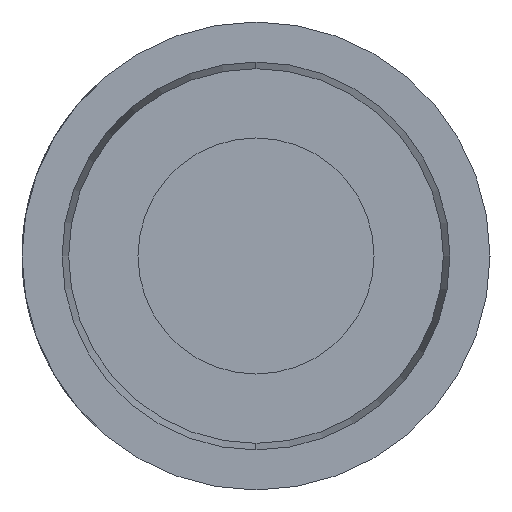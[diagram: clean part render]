
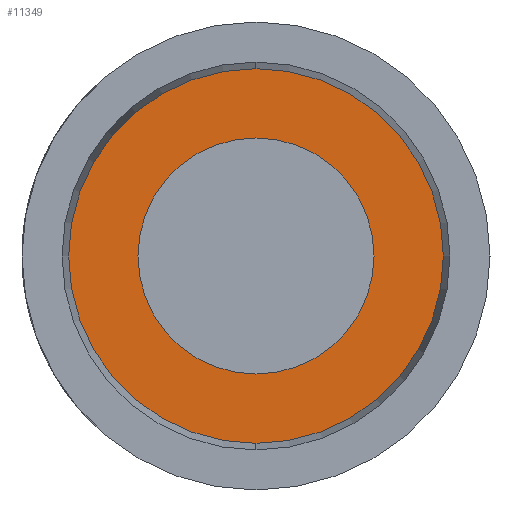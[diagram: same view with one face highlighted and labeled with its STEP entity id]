
A CAD part, left-side view. The second image highlights one B-rep face of the part: STEP entity #11349.
In plain terms, the highlighted planar face has unit normal (-1, 0, 0).
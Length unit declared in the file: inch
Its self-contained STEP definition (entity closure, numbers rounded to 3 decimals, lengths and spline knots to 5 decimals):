
#132 = CARTESIAN_POINT ( 'NONE',  ( -0.57, 0., 0. ) ) ;
#292 = FACE_BOUND ( 'NONE', #1027, .T. ) ;
#531 = VERTEX_POINT ( 'NONE', #8044 ) ;
#767 = DIRECTION ( 'NONE',  ( 0., 0., 1. ) ) ;
#1027 = EDGE_LOOP ( 'NONE', ( #7400, #18832 ) ) ;
#1342 = AXIS2_PLACEMENT_3D ( 'NONE', #18334, #16725, #2316 ) ;
#1563 = CARTESIAN_POINT ( 'NONE',  ( -0.57, -0.42035, 0. ) ) ;
#1816 = AXIS2_PLACEMENT_3D ( 'NONE', #132, #6529, #5170 ) ;
#2316 = DIRECTION ( 'NONE',  ( 0., 0., 1. ) ) ;
#4814 = PLANE ( 'NONE',  #15754 ) ;
#5170 = DIRECTION ( 'NONE',  ( 0., 0., 1. ) ) ;
#6529 = DIRECTION ( 'NONE',  ( -1., 0., 0. ) ) ;
#7127 = EDGE_LOOP ( 'NONE', ( #18601, #7585 ) ) ;
#7400 = ORIENTED_EDGE ( 'NONE', *, *, #17323, .F. ) ;
#7423 = CIRCLE ( 'NONE', #20217, 0.05 ) ;
#7585 = ORIENTED_EDGE ( 'NONE', *, *, #9438, .T. ) ;
#7917 = VERTEX_POINT ( 'NONE', #8948 ) ;
#8044 = CARTESIAN_POINT ( 'NONE',  ( -0.57, 0., 0.05 ) ) ;
#8180 = CIRCLE ( 'NONE', #1816, 0.0315 ) ;
#8663 = DIRECTION ( 'NONE',  ( -1., 0., 0. ) ) ;
#8913 = VERTEX_POINT ( 'NONE', #15537 ) ;
#8948 = CARTESIAN_POINT ( 'NONE',  ( -0.57, 0., -0.05 ) ) ;
#9127 = CARTESIAN_POINT ( 'NONE',  ( -0.57, 0., 0.0315 ) ) ;
#9438 = EDGE_CURVE ( 'NONE', #7917, #531, #18505, .T. ) ;
#9475 = DIRECTION ( 'NONE',  ( 0., 0., -1. ) ) ;
#10705 = DIRECTION ( 'NONE',  ( 0., 0., 1. ) ) ;
#11190 = AXIS2_PLACEMENT_3D ( 'NONE', #20027, #8663, #767 ) ;
#11349 = ADVANCED_FACE ( 'NONE', ( #292, #11434 ), #4814, .F. ) ;
#11434 = FACE_OUTER_BOUND ( 'NONE', #7127, .T. ) ;
#11556 = VERTEX_POINT ( 'NONE', #9127 ) ;
#12257 = CARTESIAN_POINT ( 'NONE',  ( -0.57, 0., 0. ) ) ;
#14620 = DIRECTION ( 'NONE',  ( 1., 0., 0. ) ) ;
#14844 = EDGE_CURVE ( 'NONE', #531, #7917, #7423, .T. ) ;
#15537 = CARTESIAN_POINT ( 'NONE',  ( -0.57, 0., -0.0315 ) ) ;
#15754 = AXIS2_PLACEMENT_3D ( 'NONE', #1563, #14620, #9475 ) ;
#16725 = DIRECTION ( 'NONE',  ( -1., 0., 0. ) ) ;
#17224 = EDGE_CURVE ( 'NONE', #8913, #11556, #19935, .T. ) ;
#17323 = EDGE_CURVE ( 'NONE', #11556, #8913, #8180, .T. ) ;
#18334 = CARTESIAN_POINT ( 'NONE',  ( -0.57, 0., 0. ) ) ;
#18505 = CIRCLE ( 'NONE', #1342, 0.05 ) ;
#18601 = ORIENTED_EDGE ( 'NONE', *, *, #14844, .T. ) ;
#18720 = DIRECTION ( 'NONE',  ( -1., 0., 0. ) ) ;
#18832 = ORIENTED_EDGE ( 'NONE', *, *, #17224, .F. ) ;
#19935 = CIRCLE ( 'NONE', #11190, 0.0315 ) ;
#20027 = CARTESIAN_POINT ( 'NONE',  ( -0.57, 0., 0. ) ) ;
#20217 = AXIS2_PLACEMENT_3D ( 'NONE', #12257, #18720, #10705 ) ;
